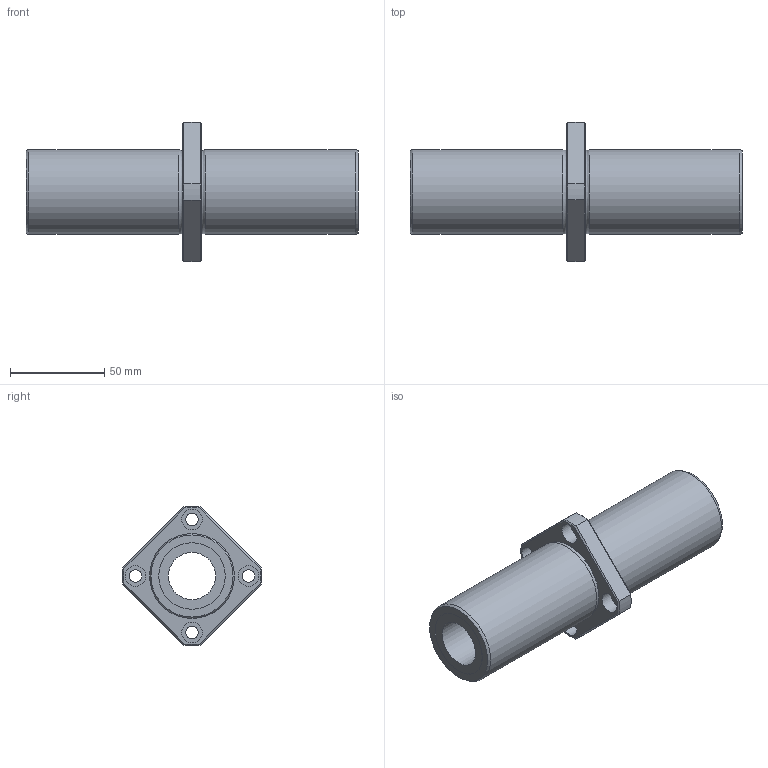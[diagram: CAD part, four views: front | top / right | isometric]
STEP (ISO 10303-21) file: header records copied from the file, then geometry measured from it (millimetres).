
FILE_DESCRIPTION((''),'2;1');
FILE_NAME('D:\製品 (図面)\カタログ用3D\メンテナンスフリー関連\STEP形式\LFLKC-MF\LFLKC25MF.stp','2010-06-01T16:01:41',('Tsuchiya'),(''),'Autodesk Inventor 10','Autodesk Inventor 10','');
FILE_SCHEMA(('AUTOMOTIVE_DESIGN { 1 0 10303 214 1 1 1 1 }'));
Length unit declared in the file: millimetre
Products named in the file (1): LFLKC25MF
Bounding box: 176 x 73.95 x 73.95 mm (x, y, z)
Volume: 207086 mm3; surface area: 45795.7 mm2
Topology: 1 solids, 1 shells, 51 faces, 103 edges, 62 vertices
Faces by surface type: plane 22, cylinder 17, cone 8, torus 2, bspline 2
Full cylindrical faces by diameter (mm): 6.6 x4, 11 x4, 25 x1, 35.3 x2, 45 x2
Entity records: 1413 total; most frequent: CARTESIAN_POINT 372, DIRECTION 216, ORIENTED_EDGE 172, AXIS2_PLACEMENT_3D 96, EDGE_CURVE 86, EDGE_LOOP 86, VERTEX_POINT 62, FACE_OUTER_BOUND 51
